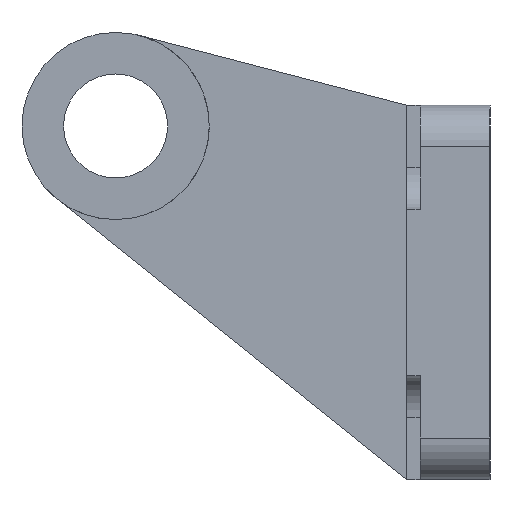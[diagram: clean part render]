
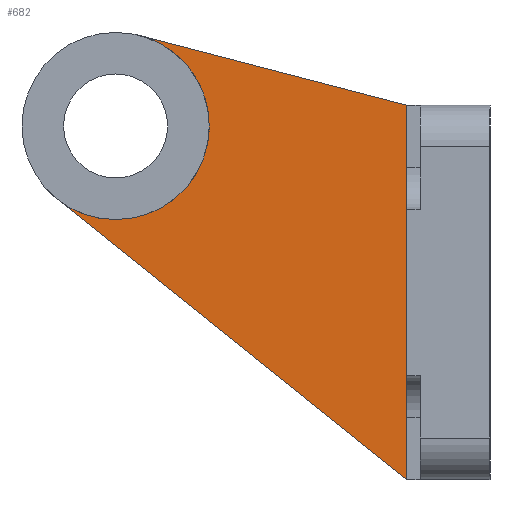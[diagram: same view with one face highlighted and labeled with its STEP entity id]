
A CAD part, left-side view. The second image highlights one B-rep face of the part: STEP entity #682.
In plain terms, the highlighted planar face has unit normal (-1, 0, 0).
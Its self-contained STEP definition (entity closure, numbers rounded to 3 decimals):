
#15 = VERTEX_POINT ( 'NONE', #94 ) ;
#21 = EDGE_CURVE ( 'NONE', #15, #30, #156, .T. ) ;
#30 = VERTEX_POINT ( 'NONE', #242 ) ;
#94 = CARTESIAN_POINT ( 'NONE',  ( -15., 90., 17.5 ) ) ;
#140 = DIRECTION ( 'NONE',  ( 1., 0., 0. ) ) ;
#146 = DIRECTION ( 'NONE',  ( 0., 0., -1. ) ) ;
#151 = DIRECTION ( 'NONE',  ( 0., 0., -1. ) ) ;
#152 = AXIS2_PLACEMENT_3D ( 'NONE', #153, #158, #151 ) ;
#153 = CARTESIAN_POINT ( 'NONE',  ( -15., 90., 40. ) ) ;
#156 = CIRCLE ( 'NONE', #152, 22.5 ) ;
#158 = DIRECTION ( 'NONE',  ( 1., 0., 0. ) ) ;
#223 = FACE_OUTER_BOUND ( 'NONE', #661, .T. ) ;
#224 = CARTESIAN_POINT ( 'NONE',  ( -15., 20., -45. ) ) ;
#225 = PLANE ( 'NONE',  #227 ) ;
#226 = CARTESIAN_POINT ( 'NONE',  ( -15., 90., 40. ) ) ;
#227 = AXIS2_PLACEMENT_3D ( 'NONE', #226, #140, #146 ) ;
#230 = LINE ( 'NONE', #224, #240 ) ;
#239 = DIRECTION ( 'NONE',  ( 0., 0.78, 0.626 ) ) ;
#240 = VECTOR ( 'NONE', #239, 1000. ) ;
#242 = CARTESIAN_POINT ( 'NONE',  ( -15., 104.079, 22.449 ) ) ;
#659 = ORIENTED_EDGE ( 'NONE', *, *, #1013, .F. ) ;
#661 = EDGE_LOOP ( 'NONE', ( #683, #676, #662, #667, #659 ) ) ;
#662 = ORIENTED_EDGE ( 'NONE', *, *, #21, .T. ) ;
#667 = ORIENTED_EDGE ( 'NONE', *, *, #677, .F. ) ;
#676 = ORIENTED_EDGE ( 'NONE', *, *, #913, .T. ) ;
#677 = EDGE_CURVE ( 'NONE', #1014, #30, #230, .T. ) ;
#682 = ADVANCED_FACE ( 'NONE', ( #223 ), #225, .F. ) ;
#683 = ORIENTED_EDGE ( 'NONE', *, *, #918, .F. ) ;
#896 = VERTEX_POINT ( 'NONE', #1369 ) ;
#913 = EDGE_CURVE ( 'NONE', #896, #15, #1397, .T. ) ;
#918 = EDGE_CURVE ( 'NONE', #896, #1011, #1411, .T. ) ;
#1011 = VERTEX_POINT ( 'NONE', #1563 ) ;
#1013 = EDGE_CURVE ( 'NONE', #1011, #1014, #1503, .T. ) ;
#1014 = VERTEX_POINT ( 'NONE', #1573 ) ;
#1359 = VECTOR ( 'NONE', #1360, 1000. ) ;
#1360 = DIRECTION ( 'NONE',  ( 0., 0., -1. ) ) ;
#1369 = CARTESIAN_POINT ( 'NONE',  ( -15., 84.323, 61.772 ) ) ;
#1390 = DIRECTION ( 'NONE',  ( 0., 0., -1. ) ) ;
#1391 = DIRECTION ( 'NONE',  ( 1., 0., 0. ) ) ;
#1392 = CARTESIAN_POINT ( 'NONE',  ( -15., 90., 40. ) ) ;
#1396 = AXIS2_PLACEMENT_3D ( 'NONE', #1392, #1391, #1390 ) ;
#1397 = CIRCLE ( 'NONE', #1396, 22.5 ) ;
#1404 = DIRECTION ( 'NONE',  ( 0., -0.968, -0.252 ) ) ;
#1409 = VECTOR ( 'NONE', #1404, 1000. ) ;
#1410 = CARTESIAN_POINT ( 'NONE',  ( -15., 20., 45. ) ) ;
#1411 = LINE ( 'NONE', #1410, #1409 ) ;
#1502 = CARTESIAN_POINT ( 'NONE',  ( -15., 20., 45. ) ) ;
#1503 = LINE ( 'NONE', #1502, #1359 ) ;
#1563 = CARTESIAN_POINT ( 'NONE',  ( -15., 20., 45. ) ) ;
#1573 = CARTESIAN_POINT ( 'NONE',  ( -15., 20., -45. ) ) ;
